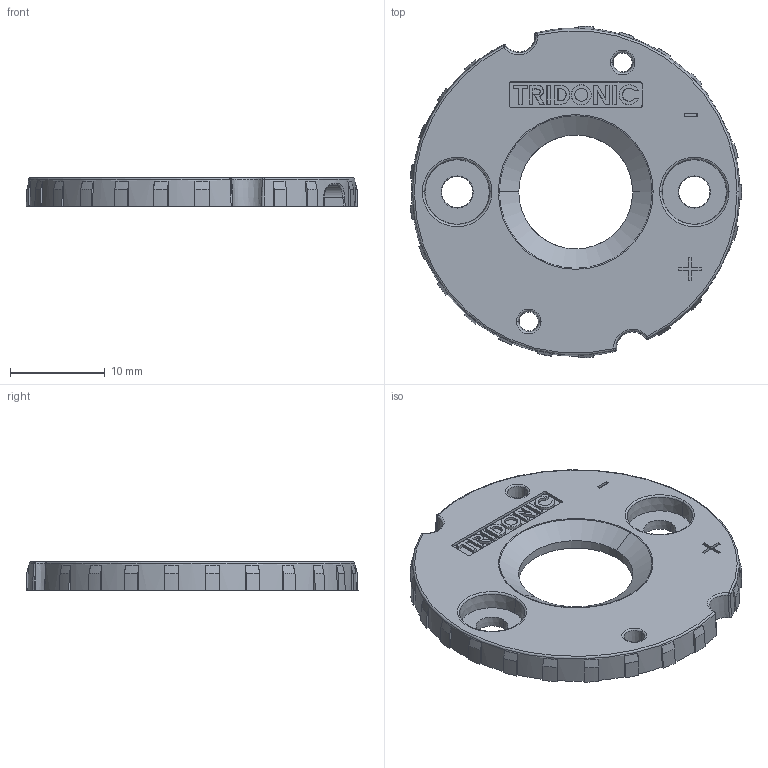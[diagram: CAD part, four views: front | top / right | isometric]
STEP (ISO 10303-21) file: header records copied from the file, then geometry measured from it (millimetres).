
FILE_DESCRIPTION((''),'2;1');
FILE_NAME('16208847_SLE-G7-D35-LES09','2019-07-03T14:01:26',('bernhard.fink'),(''),'CREO PARAMETRIC BY PTC INC, 2019030','CREO PARAMETRIC BY PTC INC, 2019030','');
FILE_SCHEMA(('AUTOMOTIVE_DESIGN { 1 0 10303 214 1 1 1 1 }'));
Length unit declared in the file: millimetre
Products named in the file (1): 16208847_SLE-G7-D35-LES09
Bounding box: 34.94 x 34.99 x 3 mm (x, y, z)
Volume: 1908.3 mm3; surface area: 2271.7 mm2
Topology: 1 solids, 1 shells, 272 faces, 776 edges, 516 vertices
Faces by surface type: plane 134, cone 74, bspline 23, torus 18, cylinder 18, sphere 5
Entity records: 22434 total; most frequent: CARTESIAN_POINT 12460, ORIENTED_EDGE 1542, DIRECTION 1465, PRESENTATION_STYLE_ASSIGNMENT 778, STYLED_ITEM 778, CURVE_STYLE 777, EDGE_CURVE 771, VERTEX_POINT 516
